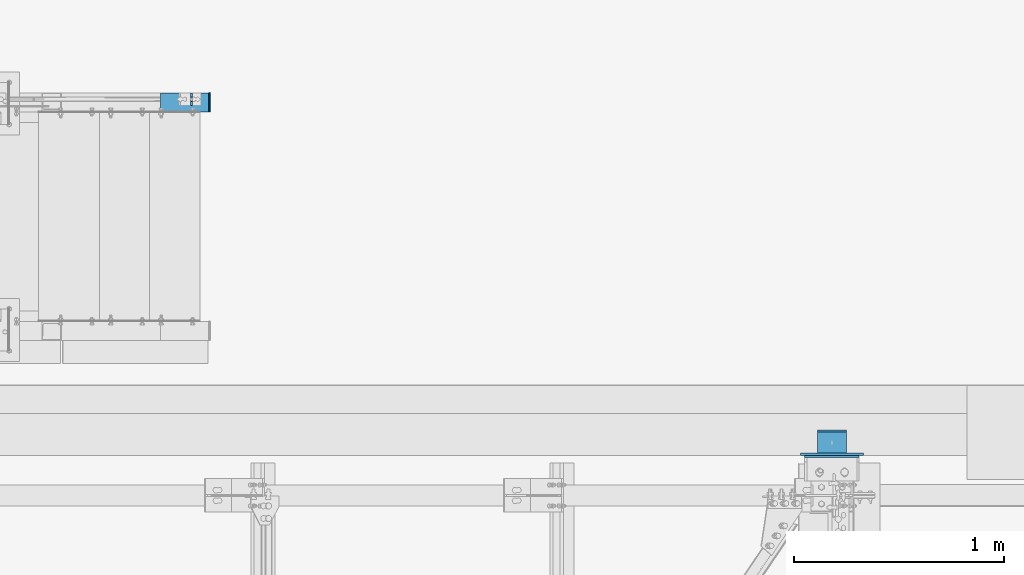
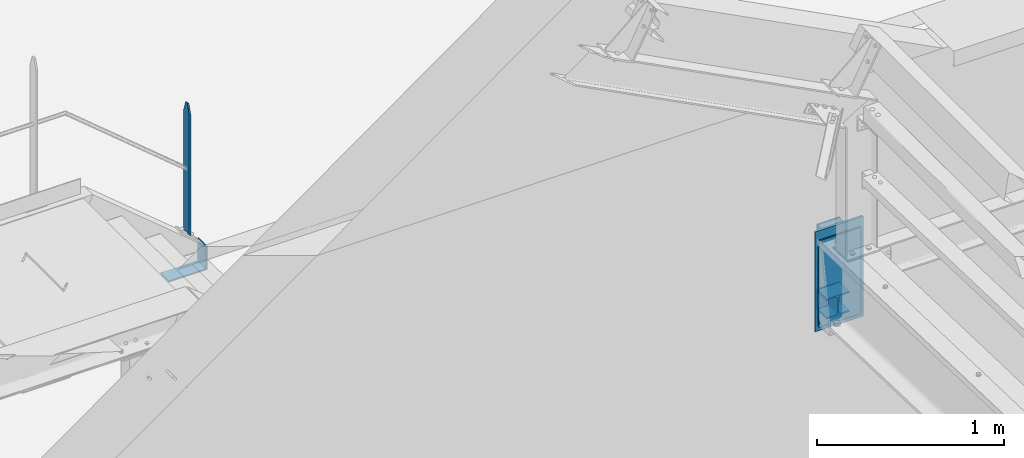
# One storey, part 100 of 362: 9 beams, 4 elements without a shape of their own.
"""IFC2X3 building model written with IfcOpenShell, lengths in millimetres."""

from ifc_helpers import new_model, si_unit, frame, origin_with_axes, origin_2d_with_axis, place, context, subcontext, project, spatial, rectangle, i_section, extrude, clip, halfspace, material, type_object, element, aggregate, save


model = new_model("IFC2X3")

# Units and contexts
model_context = context("Model", 3, precision=1e-05, world=origin_with_axes())
body_context = subcontext(model_context, "Body", "Model", "MODEL_VIEW")
ifc_project = project(units=[si_unit("LENGTHUNIT", "METRE", prefix="MILLI"), si_unit("AREAUNIT", "SQUARE_METRE"), si_unit("VOLUMEUNIT", "CUBIC_METRE"), si_unit("MASSUNIT", "GRAM", prefix="KILO"), si_unit("TIMEUNIT", "SECOND"), si_unit("PLANEANGLEUNIT", "RADIAN"), si_unit("SOLIDANGLEUNIT", "STERADIAN"), si_unit("THERMODYNAMICTEMPERATUREUNIT", "DEGREE_CELSIUS"), si_unit("LUMINOUSINTENSITYUNIT", "LUMEN")], contexts=[model_context])

# Site, building, storey
site_placement = place(None, origin_with_axes())
site = spatial("IfcSite", under=ifc_project, at=site_placement, Name="Undefined", CompositionType="ELEMENT")
building_placement = place(site_placement, origin_with_axes())
building = spatial("IfcBuilding", under=site, at=building_placement, Name="Undefined", CompositionType="ELEMENT")
storey_placement = place(building_placement, origin_with_axes())
storey = spatial("IfcBuildingStorey", under=building, at=storey_placement, Name="Undefined", CompositionType="ELEMENT", Elevation=0.0)

# Assembly, beam
assembly_1_placement = place(storey_placement, origin_with_axes())
assembly_1 = element("IfcElementAssembly", 1, at=assembly_1_placement, inside=storey, Name="MAIN COURANTE", AssemblyPlace="NOTDEFINED", PredefinedType="NOTDEFINED")
ifc_material_1 = material(Name="Undefined/S235-E24")
beam_type_1 = type_object("IfcBeamType", Name="PL10*60", PredefinedType="NOTDEFINED")
beam_1_placement = place(assembly_1_placement, frame((25825.0061849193, 17089.9938659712, 8458.13573617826), z_axis=(0.0, -1.0, 0.0), x_axis=(0.0, 0.0, -1.0)))
beam_1 = element("IfcBeam", 2, at=beam_1_placement, type_object=beam_type_1, material=ifc_material_1, Name="MONTANT", ObjectType="PL10*60", context=body_context, shape_type="Clipping", body=[
    clip(clip(clip(clip(extrude(rectangle(XDim=10.0, YDim=60.0, at=origin_2d_with_axis()), frame((860.207207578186, 0.0, 0.0), z_axis=(-1.0, 0.0, 0.0), x_axis=(0.0, -1.0, 0.0)), (0.0, 0.0, 1.0), 868.62), halfspace(frame((-120.0, 5.0, -30.0), z_axis=(-0.316227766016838, 0.0, 0.948683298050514), x_axis=(0.948683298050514, 0.0, 0.316227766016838)), False)), halfspace(frame((60.0, 5.0, -30.0), z_axis=(-0.316227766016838, 0.0, -0.948683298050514), x_axis=(-0.948683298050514, 0.0, 0.316227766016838)), False)), halfspace(frame((858.302366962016, 7.81419051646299, 0.0), z_axis=(0.768221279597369, -0.640184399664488, 0.0), x_axis=(0.0, 0.0, -1.0)), False)), halfspace(frame((5.77492361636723, 6.92990936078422, 0.0), z_axis=(0.768221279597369, -0.640184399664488, 0.0), x_axis=(0.0, 0.0, -1.0)), True)),
])
aggregate(assembly_1, [beam_1])

assembly_2_placement = place(storey_placement, origin_with_axes())
assembly_2 = element("IfcElementAssembly", 3, at=assembly_2_placement, inside=storey, AssemblyPlace="NOTDEFINED", PredefinedType="NOTDEFINED")
beam_type_2 = type_object("IfcBeamType", Name="PL12*300", PredefinedType="NOTDEFINED")
beam_2_placement = place(assembly_2_placement, frame((28880.000000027, 15396.0000000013, 7624.99732627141), z_axis=(-1.0, 0.0, 0.0), x_axis=(0.0, 0.0, -1.0)))
beam_2 = element("IfcBeam", 4, at=beam_2_placement, type_object=beam_type_2, material=ifc_material_1, Name="PRESCELLEMENT", ObjectType="PL12*300", context=body_context, shape_type="SweptSolid", body=[
    extrude(rectangle(XDim=12.0, YDim=300.0, at=origin_2d_with_axis()), frame((654.999999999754, 0.0, 0.0), z_axis=(-1.0, 0.0, 0.0), x_axis=(0.0, -1.0, 0.0)), (0.0, 0.0, 1.0), 655.0),
])

# Assembly, beams
assembly_3_placement = place(storey_placement, origin_with_axes())
assembly_3 = element("IfcElementAssembly", 5, at=assembly_3_placement, inside=storey, AssemblyPlace="NOTDEFINED", PredefinedType="NOTDEFINED")
beam_type_3 = type_object("IfcBeamType", Name="PL8*90", PredefinedType="NOTDEFINED")
beam_3_placement = place(assembly_3_placement, frame((25914.9999902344, 17074.9998774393, 7373.99994075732), z_axis=(0.0, 1.0, 0.0), x_axis=(-1.0, 0.0, 0.0)))
beam_3 = element("IfcBeam", 6, at=beam_3_placement, type_object=beam_type_3, material=ifc_material_1, Name="PLAT LIMON", ObjectType="PL8*90", context=body_context, shape_type="SweptSolid", body=[
    extrude(rectangle(XDim=8.0, YDim=90.0, at=origin_2d_with_axis()), frame((237.732983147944, 0.0, 0.0), z_axis=(-1.0, 0.0, 0.0), x_axis=(0.0, -1.0, 0.0)), (0.0, 0.0, 1.0), 237.73),
])
beam_4_placement = place(assembly_3_placement, frame((25910.9999902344, 17074.9998774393, 7524.99994075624), z_axis=(0.0, 1.0, 0.0), x_axis=(0.0, 0.0, -1.0)))
beam_4 = element("IfcBeam", 7, at=beam_4_placement, type_object=beam_type_3, material=ifc_material_1, Name="PLAT LIMON", ObjectType="PL8*90", context=body_context, shape_type="SweptSolid", body=[
    extrude(rectangle(XDim=8.0, YDim=90.0, at=origin_2d_with_axis()), frame((147.00000000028, 0.0, 0.0), z_axis=(-1.0, 0.0, 0.0), x_axis=(0.0, -1.0, 0.0)), (0.0, 0.0, 1.0), 147.0),
])
aggregate(assembly_3, [beam_3, beam_4])

# Beam
beam_type_4 = type_object("IfcBeamType", Name="PL10*140", PredefinedType="NOTDEFINED")
beam_5_placement = place(assembly_2_placement, frame((28880.0000000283, 15507.0000000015, 7151.49732627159), z_axis=(-1.0, 0.0, 0.0), x_axis=(0.0, 0.0, -1.0)))
beam_5 = element("IfcBeam", 8, at=beam_5_placement, type_object=beam_type_4, material=ifc_material_1, Name="PLAT", ObjectType="PL10*140", context=body_context, shape_type="SweptSolid", body=[
    extrude(rectangle(XDim=10.0, YDim=140.0, at=origin_2d_with_axis()), frame((132.999999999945, 0.0, 0.0), z_axis=(-1.0, 0.0, 0.0), x_axis=(0.0, -1.0, 0.0)), (0.0, 0.0, 1.0), 133.0),
])

beam_6_placement = place(assembly_2_placement, frame((28880.0000000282, 15507.0000000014, 7576.49732627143), z_axis=(-1.0, 0.0, 0.0), x_axis=(0.0, 0.0, -1.0)))
beam_6 = element("IfcBeam", 9, at=beam_6_placement, type_object=beam_type_4, material=ifc_material_1, Name="PLAT", ObjectType="PL10*140", context=body_context, shape_type="SweptSolid", body=[
    extrude(rectangle(XDim=10.0, YDim=140.0, at=origin_2d_with_axis()), frame((132.999999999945, 0.0, 0.0), z_axis=(-1.0, 0.0, 0.0), x_axis=(0.0, -1.0, 0.0)), (0.0, 0.0, 1.0), 133.0),
])

ifc_material_2 = material(Name="Undefined/S275-E28")
beam_type_5 = type_object("IfcBeamType", Name="HEA140", PredefinedType="NOTDEFINED")
beam_7_placement = place(assembly_2_placement, frame((28880.0000000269, 15402.0000000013, 7084.99732627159), z_axis=(0.0, 0.0, 1.0), x_axis=(0.0, 1.0, 0.0)))
beam_7 = element("IfcBeam", 10, at=beam_7_placement, type_object=beam_type_5, material=ifc_material_2, Name="BECHE", ObjectType="HEA140", context=body_context, shape_type="SweptSolid", body=[
    extrude(i_section(OverallWidth=140.0, OverallDepth=133.0, WebThickness=5.5, FlangeThickness=8.5, FilletRadius=12.0, at=origin_2d_with_axis()), frame((99.9999999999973, -1.63709046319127e-11, 7.73070496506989e-12), z_axis=(-1.0, 0.0, 0.0), x_axis=(0.0, -1.0, 0.0)), (0.0, 0.0, 1.0), 100.0),
])

beam_8_placement = place(assembly_2_placement, frame((28880.000000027, 15402.0000000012, 7509.99732627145), z_axis=(0.0, 0.0, 1.0), x_axis=(0.0, 1.0, 0.0)))
beam_8 = element("IfcBeam", 11, at=beam_8_placement, type_object=beam_type_5, material=ifc_material_2, Name="BECHE", ObjectType="HEA140", context=body_context, shape_type="SweptSolid", body=[
    extrude(i_section(OverallWidth=140.0, OverallDepth=133.0, WebThickness=5.5, FlangeThickness=8.5, FilletRadius=12.0, at=origin_2d_with_axis()), frame((99.9999999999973, -1.63709046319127e-11, 7.73070496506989e-12), z_axis=(-1.0, 0.0, 0.0), x_axis=(0.0, -1.0, 0.0)), (0.0, 0.0, 1.0), 100.0),
])

aggregate(assembly_2, [beam_5, beam_7, beam_6, beam_8, beam_2])

# Assembly, beam
assembly_4_placement = place(storey_placement, origin_with_axes())
assembly_4 = element("IfcElementAssembly", 12, at=assembly_4_placement, inside=storey, AssemblyPlace="NOTDEFINED", PredefinedType="NOTDEFINED")
beam_type_6 = type_object("IfcBeamType", Name="PL10*260", PredefinedType="NOTDEFINED")
beam_9_placement = place(assembly_4_placement, frame((28880.0000000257, 15385.0000000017, 7564.99732627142), z_axis=(-1.0, 0.0, 0.0), x_axis=(0.0, 0.0, -1.0)))
beam_9 = element("IfcBeam", 13, at=beam_9_placement, type_object=beam_type_6, material=ifc_material_1, Name="SABOT", ObjectType="PL10*260", context=body_context, shape_type="SweptSolid", body=[
    extrude(rectangle(XDim=10.0, YDim=260.0, at=origin_2d_with_axis()), frame((564.999999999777, 0.0, 0.0), z_axis=(-1.0, 0.0, 0.0), x_axis=(0.0, -1.0, 0.0)), (0.0, 0.0, 1.0), 565.0),
])
aggregate(assembly_4, [beam_9])

save(model, "model.ifc")
